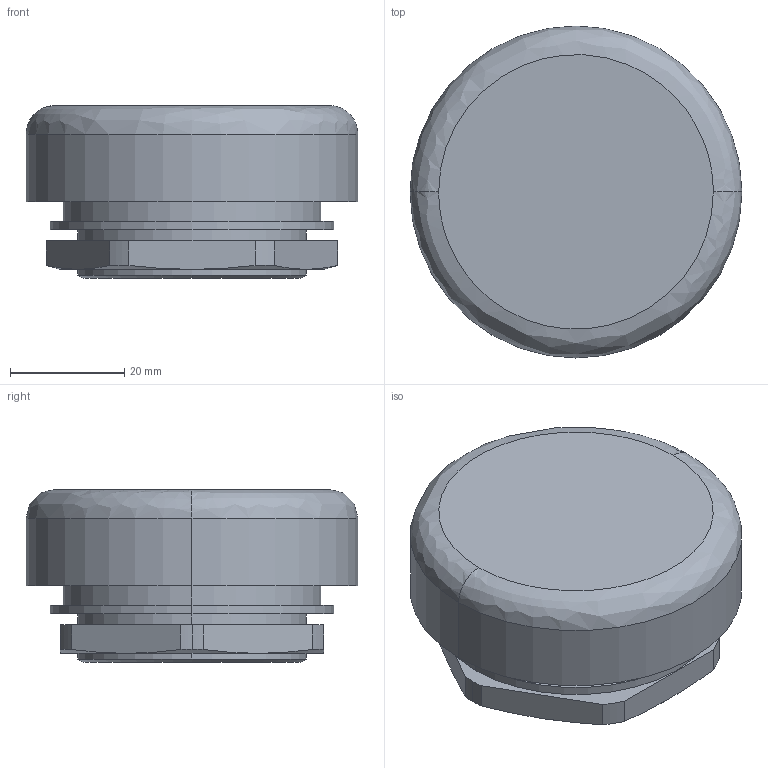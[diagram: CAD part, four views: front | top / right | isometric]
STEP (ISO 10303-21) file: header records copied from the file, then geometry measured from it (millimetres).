
FILE_DESCRIPTION (( 'STEP AP203' ), '1' );
FILE_NAME ('EDA40_V1.step', '2013-07-23T11:03:40', ( '' ), ( '' ), 'SwSTEP 2.0', 'SolidWorks 2011', '' );
FILE_SCHEMA (( 'CONFIG_CONTROL_DESIGN' ));
Length unit declared in the file: inch
Products named in the file (1): EDA40_V1
Bounding box: 58 x 58 x 30.2 mm (x, y, z)
Volume: 65159.7 mm3; surface area: 11580.1 mm2
Topology: 1 solids, 1 shells, 41 faces, 100 edges, 66 vertices
Faces by surface type: cylinder 17, plane 13, cone 9, bspline 2
Entity records: 1363 total; most frequent: CARTESIAN_POINT 304, DIRECTION 214, ORIENTED_EDGE 200, EDGE_CURVE 100, AXIS2_PLACEMENT_3D 88, VERTEX_POINT 66, CIRCLE 48, EDGE_LOOP 46
